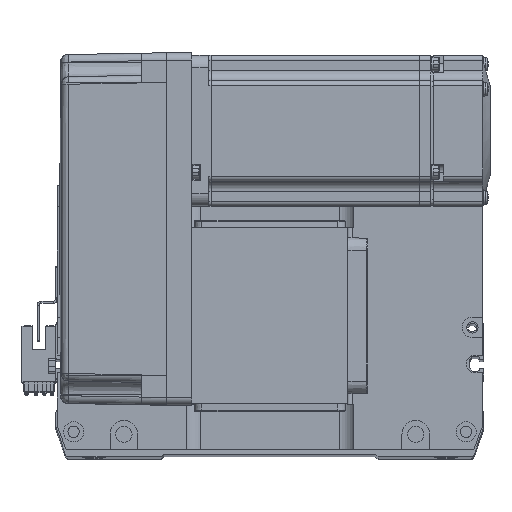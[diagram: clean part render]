
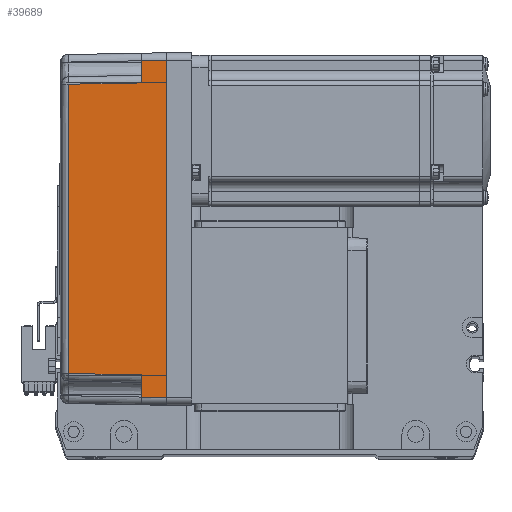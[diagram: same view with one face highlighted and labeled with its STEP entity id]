
A CAD part, top view. The second image highlights one B-rep face of the part: STEP entity #39689.
In plain terms, the highlighted planar face has unit normal (-0.018, 0, 1) as drawn and (0, 1, 0.017) by its records, which use the part's own axes.
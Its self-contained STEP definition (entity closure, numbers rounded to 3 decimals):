
#242 = CARTESIAN_POINT ( 'NONE',  ( -67., 36., 0. ) ) ;
#1196 = ORIENTED_EDGE ( 'NONE', *, *, #32626, .T. ) ;
#1493 = EDGE_CURVE ( 'NONE', #56226, #13373, #37434, .T. ) ;
#3769 = DIRECTION ( 'NONE',  ( -0.017, -0.017, 1. ) ) ;
#3848 = LINE ( 'NONE', #52935, #13429 ) ;
#3975 = CARTESIAN_POINT ( 'NONE',  ( 67.001, 36.001, -0.052 ) ) ;
#4223 = DIRECTION ( 'NONE',  ( 1., 0., 0. ) ) ;
#6233 = LINE ( 'NONE', #242, #55230 ) ;
#6328 = DIRECTION ( 'NONE',  ( 0.017, 0.017, -1. ) ) ;
#6371 = CARTESIAN_POINT ( 'NONE',  ( 57.495, 35.32, 38.985 ) ) ;
#7643 = VERTEX_POINT ( 'NONE', #59086 ) ;
#7747 = VECTOR ( 'NONE', #44950, 1000. ) ;
#8246 = EDGE_CURVE ( 'NONE', #48360, #13373, #45260, .T. ) ;
#9094 = CARTESIAN_POINT ( 'NONE',  ( 67., 36., 0. ) ) ;
#12717 = CARTESIAN_POINT ( 'NONE',  ( 66.826, 35.825, 10. ) ) ;
#12771 = CARTESIAN_POINT ( 'NONE',  ( -58., 35.825, 10. ) ) ;
#13157 = DIRECTION ( 'NONE',  ( 0., 1., 0.017 ) ) ;
#13324 = CARTESIAN_POINT ( 'NONE',  ( -19.165, 35.316, 39.181 ) ) ;
#13373 = VERTEX_POINT ( 'NONE', #12717 ) ;
#13429 = VECTOR ( 'NONE', #47933, 1000. ) ;
#13620 = EDGE_CURVE ( 'NONE', #27000, #27871, #3848, .T. ) ;
#16875 = EDGE_LOOP ( 'NONE', ( #44592, #1196, #57791, #40723, #22782, #58232, #45182, #29753 ) ) ;
#17354 = DIRECTION ( 'NONE',  ( 0., -0.017, 1. ) ) ;
#21350 = VECTOR ( 'NONE', #6328, 1000. ) ;
#22099 = CARTESIAN_POINT ( 'NONE',  ( 58., 35.825, 10. ) ) ;
#22513 = PLANE ( 'NONE',  #41958 ) ;
#22782 = ORIENTED_EDGE ( 'NONE', *, *, #39923, .T. ) ;
#24060 = EDGE_CURVE ( 'NONE', #7643, #50681, #6233, .T. ) ;
#25682 = CARTESIAN_POINT ( 'NONE',  ( 70., 35.825, 10. ) ) ;
#27000 = VERTEX_POINT ( 'NONE', #12771 ) ;
#27871 = VERTEX_POINT ( 'NONE', #39407 ) ;
#28225 = CARTESIAN_POINT ( 'NONE',  ( 70., 35.825, 10. ) ) ;
#28808 = VERTEX_POINT ( 'NONE', #6371 ) ;
#29753 = ORIENTED_EDGE ( 'NONE', *, *, #45614, .F. ) ;
#31790 = LINE ( 'NONE', #41552, #54912 ) ;
#32626 = EDGE_CURVE ( 'NONE', #50681, #27000, #60451, .T. ) ;
#36915 = LINE ( 'NONE', #44859, #21350 ) ;
#36983 = CARTESIAN_POINT ( 'NONE',  ( -57.495, 35.32, 38.985 ) ) ;
#37003 = DIRECTION ( 'NONE',  ( 1., 0., 0. ) ) ;
#37434 = LINE ( 'NONE', #28225, #45617 ) ;
#39407 = CARTESIAN_POINT ( 'NONE',  ( -57.495, 35.32, 38.985 ) ) ;
#39689 = ADVANCED_FACE ( 'NONE', ( #50375 ), #22513, .T. ) ;
#39923 = EDGE_CURVE ( 'NONE', #28808, #56226, #36915, .T. ) ;
#40723 = ORIENTED_EDGE ( 'NONE', *, *, #59344, .T. ) ;
#40956 = CARTESIAN_POINT ( 'NONE',  ( 70., 36., 0. ) ) ;
#41552 = CARTESIAN_POINT ( 'NONE',  ( 0., 36., 0. ) ) ;
#41958 = AXIS2_PLACEMENT_3D ( 'NONE', #40956, #13157, #17354 ) ;
#44480 = VECTOR ( 'NONE', #3769, 1000. ) ;
#44592 = ORIENTED_EDGE ( 'NONE', *, *, #24060, .T. ) ;
#44859 = CARTESIAN_POINT ( 'NONE',  ( 57.495, 35.32, 38.985 ) ) ;
#44950 = DIRECTION ( 'NONE',  ( 1., 0., 0. ) ) ;
#45182 = ORIENTED_EDGE ( 'NONE', *, *, #8246, .F. ) ;
#45260 = LINE ( 'NONE', #3975, #44480 ) ;
#45614 = EDGE_CURVE ( 'NONE', #7643, #48360, #31790, .T. ) ;
#45617 = VECTOR ( 'NONE', #4223, 1000. ) ;
#46536 = CARTESIAN_POINT ( 'NONE',  ( 19.165, 35.316, 39.181 ) ) ;
#47490 = B_SPLINE_CURVE_WITH_KNOTS ( 'NONE', 3,
 ( #36983, #13324, #46536, #51363 ),
 .UNSPECIFIED., .F., .F.,
 ( 4, 4 ),
 ( 0., 1. ),
 .UNSPECIFIED. ) ;
#47933 = DIRECTION ( 'NONE',  ( 0.017, -0.017, 1. ) ) ;
#48360 = VERTEX_POINT ( 'NONE', #9094 ) ;
#49735 = CARTESIAN_POINT ( 'NONE',  ( -66.826, 35.825, 10. ) ) ;
#50375 = FACE_OUTER_BOUND ( 'NONE', #16875, .T. ) ;
#50681 = VERTEX_POINT ( 'NONE', #49735 ) ;
#51363 = CARTESIAN_POINT ( 'NONE',  ( 57.495, 35.32, 38.985 ) ) ;
#51894 = DIRECTION ( 'NONE',  ( 0.017, -0.017, 1. ) ) ;
#52935 = CARTESIAN_POINT ( 'NONE',  ( -58., 35.825, 10. ) ) ;
#54912 = VECTOR ( 'NONE', #37003, 1000. ) ;
#55230 = VECTOR ( 'NONE', #51894, 1000. ) ;
#56226 = VERTEX_POINT ( 'NONE', #22099 ) ;
#57791 = ORIENTED_EDGE ( 'NONE', *, *, #13620, .T. ) ;
#58232 = ORIENTED_EDGE ( 'NONE', *, *, #1493, .T. ) ;
#59086 = CARTESIAN_POINT ( 'NONE',  ( -67., 36., 0. ) ) ;
#59344 = EDGE_CURVE ( 'NONE', #27871, #28808, #47490, .T. ) ;
#60451 = LINE ( 'NONE', #25682, #7747 ) ;
